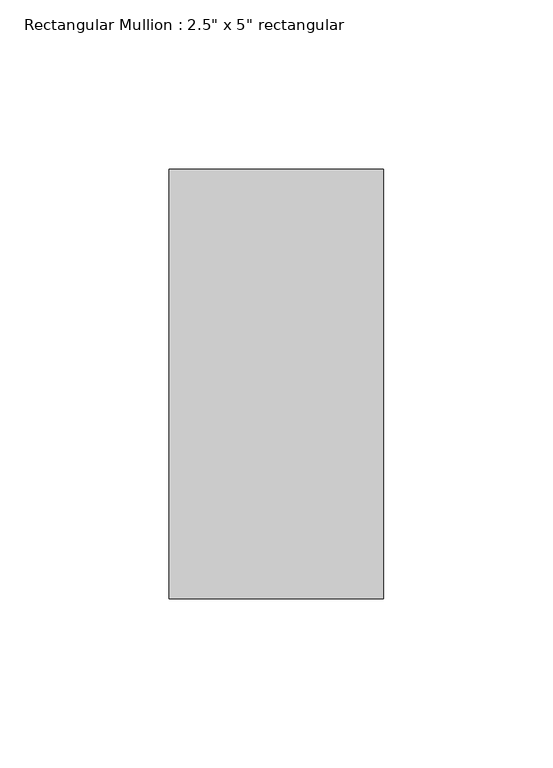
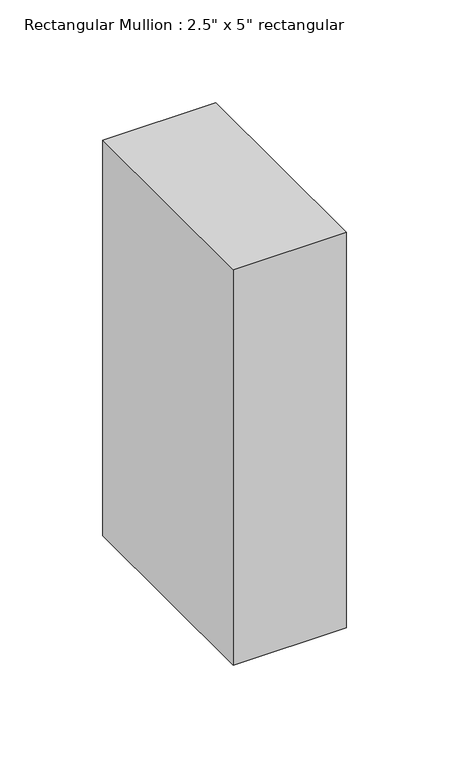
"""IFC4 building model written with IfcOpenShell, lengths in millimetres: member geometry."""

from ifc_helpers import new_model, si_unit, frame, origin, place, context, project, spatial, polyline, outline, extrude, source, transform, mapped, element, save


def member_a608d019(model_context):
    return source(origin(), model_context, "Body", "SweptSolid", [
        extrude(outline(polyline([(0.0, 63.5), (0.0, -63.5), (-63.5, -63.5), (-63.5, 63.5), (0.0, 63.5)])), frame((0.0, 0.0, -234.95), z_axis=(0.0, 0.0, 1.0), x_axis=(1.0, 0.0, 0.0)), (0.0, 0.0, 1.0), 234.95),
    ])


if __name__ == "__main__":
    model = new_model("IFC4")
    model_context = context("Model", 3, world=origin())
    ifc_project = project(units=[si_unit("LENGTHUNIT", "METRE", prefix="MILLI")], contexts=[model_context])
    site = spatial("IfcSite", under=ifc_project)
    building = spatial("IfcBuilding", under=site)
    placement = place(None, origin())
    member_shape = member_a608d019(model_context)
    element("IfcMember", 1, ObjectType="Rectangular Mullion : 2.5\" x 5\" rectangular", at=placement, inside=building, context=model_context, shape_type="MappedRepresentation", body=[
        mapped(member_shape, transform((0.0, 0.0, 0.0), x_axis=(1.0, 0.0, 0.0), y_axis=(0.0, 1.0, 0.0), z_axis=(0.0, 0.0, 1.0))),
    ])
    save(model, "model.ifc")
